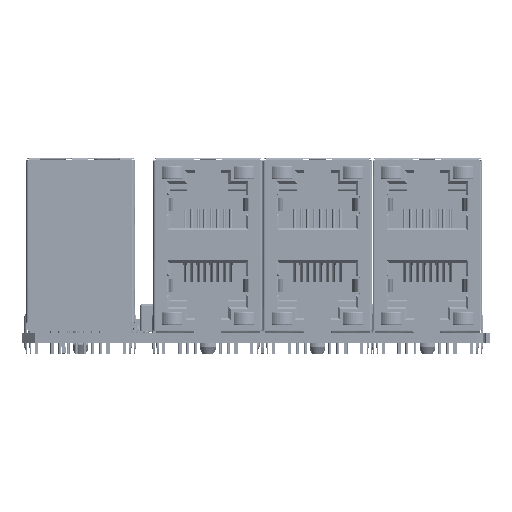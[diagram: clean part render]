
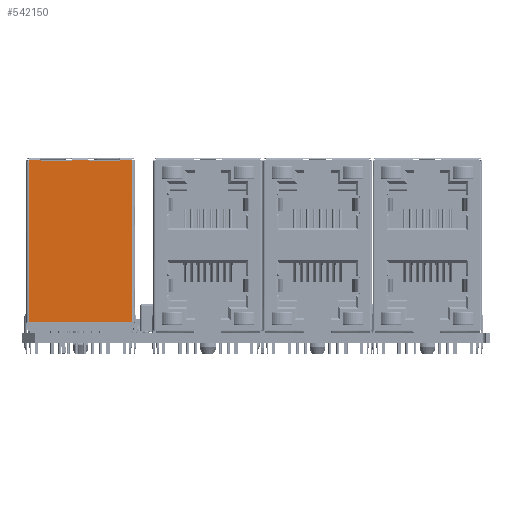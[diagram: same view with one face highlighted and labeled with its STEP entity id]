
A CAD part, front view. The second image highlights one B-rep face of the part: STEP entity #542150.
In plain terms, the highlighted planar face has unit normal (0, -1, 0) as drawn and (0, 0, 1) by its records, which use the part's own axes.
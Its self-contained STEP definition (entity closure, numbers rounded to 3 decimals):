
#498642=CARTESIAN_POINT('',(-16.358,-13.275,3.39));
#498665=DIRECTION('',(1.,0.,0.));
#498666=VECTOR('',#498665,1.832);
#498667=CARTESIAN_POINT('',(-18.19,-13.275,3.39));
#498668=LINE('',#498667,#498666);
#498673=CARTESIAN_POINT('',(-25.94,-13.441,3.39));
#498674=DIRECTION('',(0.,0.,1.));
#498675=DIRECTION('',(0.834,0.552,0.));
#498676=AXIS2_PLACEMENT_3D('',#498673,#498674,#498675);
#498678=DIRECTION('',(-1.,0.,0.));
#498679=VECTOR('',#498678,4.4);
#498680=CARTESIAN_POINT('',(-25.94,-13.141,3.39));
#498681=LINE('',#498680,#498679);
#498682=CARTESIAN_POINT('',(-30.34,-13.441,3.39));
#498683=DIRECTION('',(0.,0.,1.));
#498684=DIRECTION('',(0.,1.,0.));
#498685=AXIS2_PLACEMENT_3D('',#498682,#498683,#498684);
#498687=CARTESIAN_POINT('',(-32.705,-13.375,3.39));
#498688=DIRECTION('',(0.,0.,1.));
#498689=DIRECTION('',(0.943,0.333,0.));
#498690=AXIS2_PLACEMENT_3D('',#498687,#498688,#498689);
#498692=CARTESIAN_POINT('',(-16.075,-13.375,3.39));
#498693=DIRECTION('',(0.,0.,1.));
#498694=DIRECTION('',(-0.833,0.553,0.));
#498695=AXIS2_PLACEMENT_3D('',#498692,#498693,#498694);
#498697=CARTESIAN_POINT('',(-18.44,-13.441,3.39));
#498698=DIRECTION('',(0.,0.,1.));
#498699=DIRECTION('',(0.834,0.552,0.));
#498700=AXIS2_PLACEMENT_3D('',#498697,#498698,#498699);
#498702=DIRECTION('',(-1.,0.,0.));
#498703=VECTOR('',#498702,4.4);
#498704=CARTESIAN_POINT('',(-18.44,-13.141,3.39));
#498705=LINE('',#498704,#498703);
#498706=CARTESIAN_POINT('',(-22.84,-13.441,3.39));
#498707=DIRECTION('',(0.,0.,1.));
#498708=DIRECTION('',(0.,1.,0.));
#498709=AXIS2_PLACEMENT_3D('',#498706,#498707,#498708);
#498922=DIRECTION('',(0.,1.,0.));
#498923=VECTOR('',#498922,25.194);
#498924=CARTESIAN_POINT('',(-16.325,-13.209,3.39));
#498925=LINE('',#498924,#498923);
#499023=DIRECTION('',(-1.,0.,0.));
#499024=VECTOR('',#499023,16.13);
#499025=CARTESIAN_POINT('',(-16.325,11.985,3.39));
#499026=LINE('',#499025,#499024);
#499281=DIRECTION('',(0.,-1.,0.));
#499282=VECTOR('',#499281,25.194);
#499283=CARTESIAN_POINT('',(-32.455,11.985,3.39));
#499284=LINE('',#499283,#499282);
#499502=DIRECTION('',(1.,0.,0.));
#499503=VECTOR('',#499502,1.832);
#499504=CARTESIAN_POINT('',(-32.422,-13.275,3.39));
#499505=LINE('',#499504,#499503);
#499515=DIRECTION('',(1.,0.,0.));
#499516=VECTOR('',#499515,2.6);
#499517=CARTESIAN_POINT('',(-25.69,-13.275,3.39));
#499518=LINE('',#499517,#499516);
#513312=VERTEX_POINT('',#498642);
#513314=CARTESIAN_POINT('',(-18.19,-13.275,3.39));
#513315=VERTEX_POINT('',#513314);
#513318=CARTESIAN_POINT('',(-18.44,-13.141,3.39));
#513319=VERTEX_POINT('',#513318);
#513342=CARTESIAN_POINT('',(-25.94,-13.141,3.39));
#513343=VERTEX_POINT('',#513342);
#513344=CARTESIAN_POINT('',(-25.69,-13.275,3.39));
#513345=VERTEX_POINT('',#513344);
#513346=CARTESIAN_POINT('',(-30.34,-13.141,3.39));
#513347=VERTEX_POINT('',#513346);
#513348=CARTESIAN_POINT('',(-30.59,-13.275,3.39));
#513349=VERTEX_POINT('',#513348);
#513350=CARTESIAN_POINT('',(-32.422,-13.275,3.39));
#513351=VERTEX_POINT('',#513350);
#513352=CARTESIAN_POINT('',(-32.455,-13.209,3.39));
#513353=VERTEX_POINT('',#513352);
#513361=CARTESIAN_POINT('',(-32.455,11.985,3.39));
#513362=VERTEX_POINT('',#513361);
#513365=CARTESIAN_POINT('',(-16.325,11.985,3.39));
#513366=VERTEX_POINT('',#513365);
#513426=CARTESIAN_POINT('',(-16.325,-13.209,3.39));
#513427=VERTEX_POINT('',#513426);
#513428=CARTESIAN_POINT('',(-22.84,-13.141,3.39));
#513429=VERTEX_POINT('',#513428);
#513430=CARTESIAN_POINT('',(-23.09,-13.275,3.39));
#513431=VERTEX_POINT('',#513430);
#542116=CARTESIAN_POINT('',(-16.175,-13.275,3.39));
#542117=DIRECTION('',(0.,0.,1.));
#542118=DIRECTION('',(0.,1.,0.));
#542119=AXIS2_PLACEMENT_3D('',#542116,#542117,#542118);
#542120=PLANE('',#542119);
#542122=ORIENTED_EDGE('',*,*,#542121,.T.);
#542124=ORIENTED_EDGE('',*,*,#542123,.T.);
#542126=ORIENTED_EDGE('',*,*,#542125,.T.);
#542128=ORIENTED_EDGE('',*,*,#542127,.F.);
#542130=ORIENTED_EDGE('',*,*,#542129,.T.);
#542132=ORIENTED_EDGE('',*,*,#542131,.F.);
#542134=ORIENTED_EDGE('',*,*,#542133,.F.);
#542136=ORIENTED_EDGE('',*,*,#542135,.F.);
#542138=ORIENTED_EDGE('',*,*,#542137,.T.);
#542139=ORIENTED_EDGE('',*,*,#542109,.F.);
#542141=ORIENTED_EDGE('',*,*,#542140,.T.);
#542143=ORIENTED_EDGE('',*,*,#542142,.T.);
#542145=ORIENTED_EDGE('',*,*,#542144,.T.);
#542147=ORIENTED_EDGE('',*,*,#542146,.F.);
#542148=EDGE_LOOP('',(#542122,#542124,#542126,#542128,#542130,#542132,#542134,#542136,#542138,#542139,#542141,#542143,#542145,#542147));
#542149=FACE_OUTER_BOUND('',#542148,.F.);
#542150=ADVANCED_FACE('',(#542149),#542120,.T.);
#498677=CIRCLE('',#498676,0.3);
#498686=CIRCLE('',#498685,0.3);
#498691=CIRCLE('',#498690,0.3);
#498696=CIRCLE('',#498695,0.3);
#498701=CIRCLE('',#498700,0.3);
#498710=CIRCLE('',#498709,0.3);
#542109=EDGE_CURVE('',#513315,#513312,#498668,.T.);
#542121=EDGE_CURVE('',#513345,#513343,#498677,.T.);
#542123=EDGE_CURVE('',#513343,#513347,#498681,.T.);
#542125=EDGE_CURVE('',#513347,#513349,#498686,.T.);
#542127=EDGE_CURVE('',#513351,#513349,#499505,.T.);
#542129=EDGE_CURVE('',#513351,#513353,#498691,.T.);
#542131=EDGE_CURVE('',#513362,#513353,#499284,.T.);
#542133=EDGE_CURVE('',#513366,#513362,#499026,.T.);
#542135=EDGE_CURVE('',#513427,#513366,#498925,.T.);
#542137=EDGE_CURVE('',#513427,#513312,#498696,.T.);
#542140=EDGE_CURVE('',#513315,#513319,#498701,.T.);
#542142=EDGE_CURVE('',#513319,#513429,#498705,.T.);
#542144=EDGE_CURVE('',#513429,#513431,#498710,.T.);
#542146=EDGE_CURVE('',#513345,#513431,#499518,.T.);
